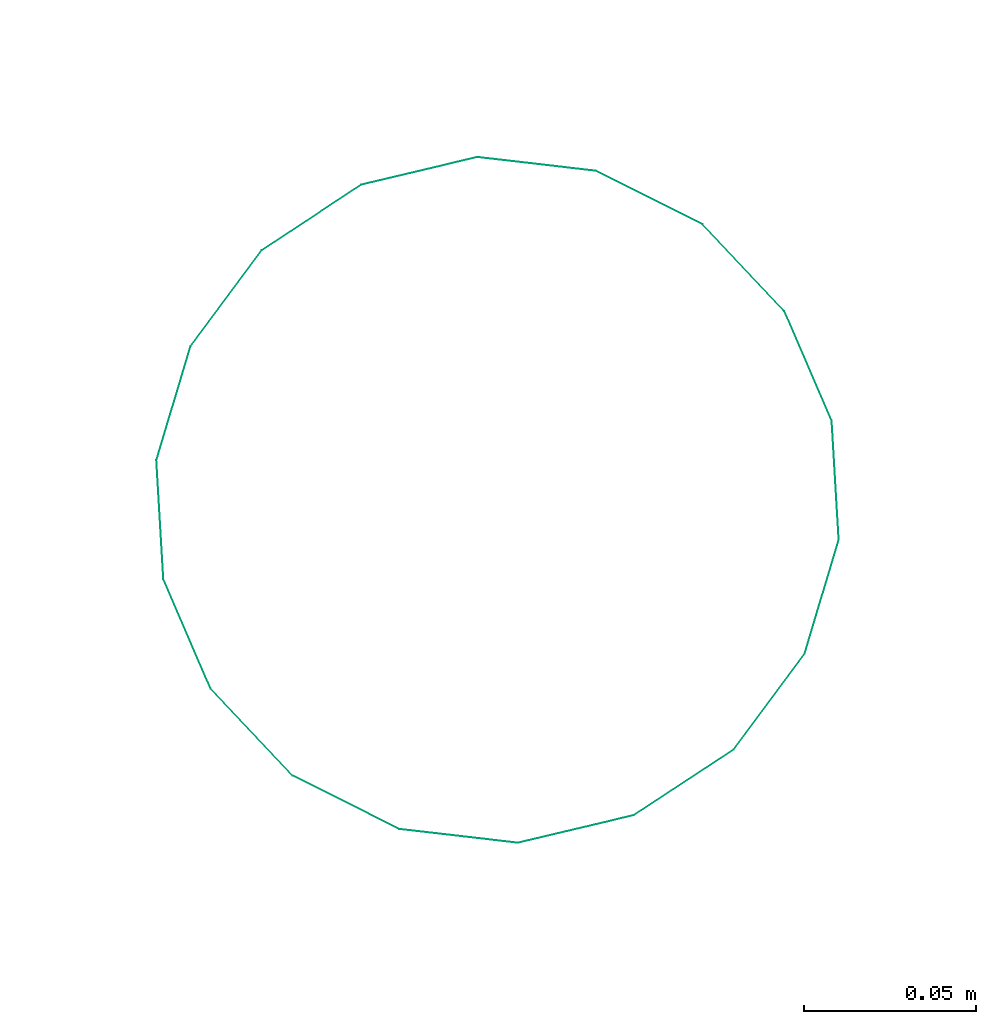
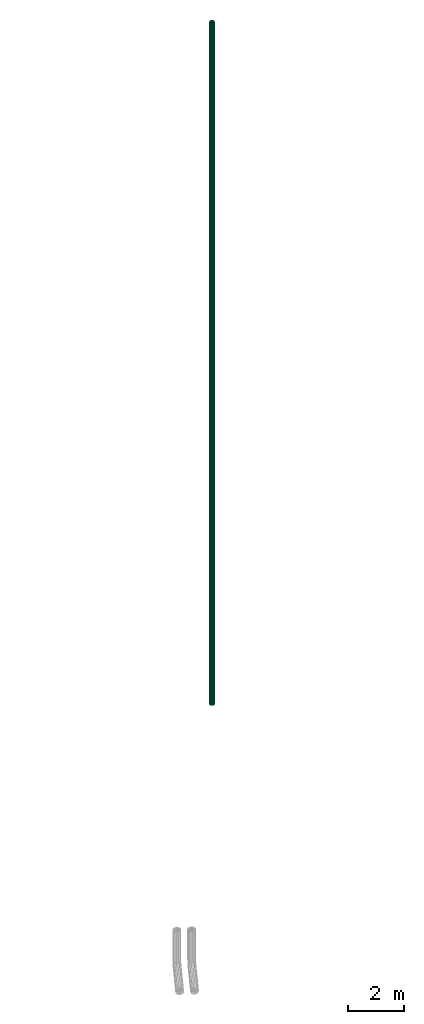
# One storey, part 2 of 11: 1 flow segment.
"""IFC2X3 building model written with IfcOpenShell, lengths in metres."""

from ifc_helpers import new_model, si_unit, derived_unit, direction, frame, origin, place, context, subcontext, project, spatial, face_set, surface_model, source, transform, mapped, material, type_object, type_shapes, element, save


model = new_model("IFC2X3")

# Units and contexts
model_context = context("Model", 3, precision=5.2338327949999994e-05, world=origin(), true_north=direction((0.0, 1.0)))
body_context = subcontext(model_context, "Body", "Model", "MODEL_VIEW")
ifc_project = project(units=[si_unit("LENGTHUNIT", "METRE"), si_unit("AREAUNIT", "SQUARE_METRE"), si_unit("VOLUMEUNIT", "CUBIC_METRE"), si_unit("MASSUNIT", "GRAM", prefix="KILO"), si_unit("PLANEANGLEUNIT", "RADIAN"), derived_unit("THERMALTRANSMITTANCEUNIT", [(si_unit("MASSUNIT", "GRAM", prefix="KILO"), 1), (si_unit("THERMODYNAMICTEMPERATUREUNIT", "KELVIN"), -1), (si_unit("TIMEUNIT", "SECOND"), -3)])], contexts=[model_context])

# Site, building, storey
site_placement = place(None, frame((0.0, 0.0, 0.0), z_axis=(0.0, 0.0, 1.0), x_axis=(0.8939966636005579, -0.4480736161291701, 0.0)))
site = spatial("IfcSite", under=ifc_project, at=site_placement, Name="Default", CompositionType="ELEMENT")
building_placement = place(site_placement, origin())
building = spatial("IfcBuilding", under=site, at=building_placement, CompositionType="ELEMENT")
storey_placement = place(building_placement, frame((0.0, 0.0, -2.7499999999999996)))
storey = spatial("IfcBuildingStorey", under=building, at=storey_placement, Name="1. Untergeschoss", CompositionType="ELEMENT", Elevation=-2.7499999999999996)

# Flow segment
ifc_material = material(Name="IfcSurfaceStyle #251447")
distribution_element_type = type_object("IfcDistributionElementType", Name="Wickelfalzrohr 618664:Wickelfalzrohr 618664", material=ifc_material)
shared_shape = source(origin(), body_context, "Body", "SurfaceModel", [
    surface_model("IfcFaceBasedSurfaceModel", [(27.16938515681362, 16.23711232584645, -0.30000000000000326), (27.175415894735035, 16.202910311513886, -0.30000000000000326), (27.175415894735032, 16.202910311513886, 29.249999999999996), (27.169385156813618, 16.23711232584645, 29.249999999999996), (27.19278071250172, 16.172833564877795, -0.30000000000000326), (27.19278071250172, 16.172833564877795, 29.249999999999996), (27.219385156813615, 16.150509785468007, -0.30000000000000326), (27.219385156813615, 16.150509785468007, 29.249999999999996), (27.252020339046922, 16.13863155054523, -0.30000000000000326), (27.252020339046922, 16.13863155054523, 29.249999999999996), (27.286749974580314, 16.13863155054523, -0.30000000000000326), (27.286749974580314, 16.13863155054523, 29.249999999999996), (27.319385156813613, 16.150509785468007, -0.30000000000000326), (27.319385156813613, 16.150509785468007, 29.249999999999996), (27.345989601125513, 16.1728335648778, -0.30000000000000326), (27.345989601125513, 16.1728335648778, 29.249999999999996), (27.36335441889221, 16.20291031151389, -0.30000000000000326), (27.36335441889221, 16.20291031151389, 29.249999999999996), (27.36938515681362, 16.237112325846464, -0.30000000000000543), (27.369385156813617, 16.23711232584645, 29.249999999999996), (27.363354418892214, 16.271314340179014, -0.30000000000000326), (27.363354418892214, 16.271314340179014, 29.249999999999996), (27.345989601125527, 16.30139108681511, -0.30000000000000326), (27.345989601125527, 16.30139108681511, 29.249999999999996), (27.319385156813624, 16.323714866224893, -0.30000000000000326), (27.319385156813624, 16.323714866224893, 29.249999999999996), (27.286749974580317, 16.335593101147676, -0.30000000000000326), (27.286749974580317, 16.335593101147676, 29.249999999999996), (27.25202033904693, 16.335593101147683, -0.30000000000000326), (27.25202033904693, 16.335593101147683, 29.249999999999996), (27.219385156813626, 16.323714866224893, -0.30000000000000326), (27.219385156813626, 16.323714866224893, 29.249999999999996), (27.192780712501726, 16.30139108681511, -0.30000000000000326), (27.192780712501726, 16.30139108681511, 29.249999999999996), (27.175415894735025, 16.271314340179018, -0.30000000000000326), (27.175415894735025, 16.271314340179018, 29.249999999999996)], [face_set([[[0, 1, 2, 3]], [[1, 4, 5, 2]], [[4, 6, 7, 5]], [[6, 8, 9, 7]], [[8, 10, 11, 9]], [[10, 12, 13, 11]], [[12, 14, 15, 13]], [[14, 16, 17, 15]], [[16, 18, 19, 17]], [[18, 20, 21, 19]], [[20, 22, 23, 21]], [[22, 24, 25, 23]], [[24, 26, 27, 25]], [[26, 28, 29, 27]], [[28, 30, 31, 29]], [[30, 32, 33, 31]], [[32, 34, 35, 33]], [[34, 0, 3, 35]]])]),
])
type_shapes(distribution_element_type, [shared_shape])
flow_segment_placement = place(storey_placement, frame((0.0, 0.0, 2.7499999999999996)))
element("IfcFlowSegment", 1, at=flow_segment_placement, inside=storey, type_object=distribution_element_type, material=ifc_material, Name="Wickelfalzrohr", ObjectType="Wickelfalzrohr", context=body_context, shape_type="MappedRepresentation", body=[
    mapped(shared_shape, transform((0.0, 0.0, 0.0), scale=1.0)),
])

save(model, "model.ifc")
